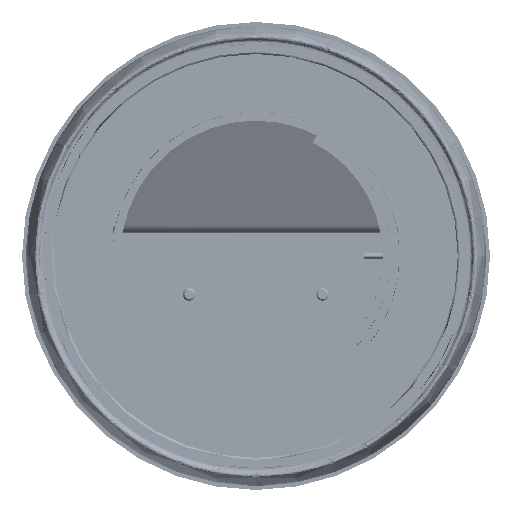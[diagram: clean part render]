
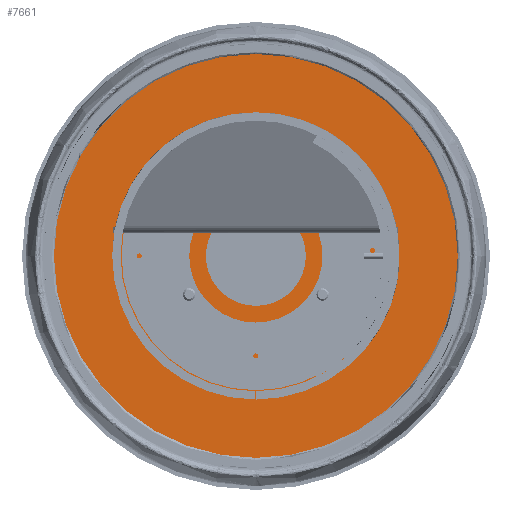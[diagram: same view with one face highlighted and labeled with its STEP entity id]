
A CAD part, front view. The second image highlights one B-rep face of the part: STEP entity #7661.
In plain terms, the highlighted planar face has unit normal (0, -1, 0).
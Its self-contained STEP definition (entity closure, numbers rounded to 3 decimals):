
#7017 = CARTESIAN_POINT ( 'NONE',  ( 0., 108., 2.534 ) ) ;
#7487 = AXIS2_PLACEMENT_3D ( 'NONE', #106033, #321375, #16121 ) ;
#7661 = ADVANCED_FACE ( 'NONE', ( #284906, #386206, #193384, #101894, #73032 ), #90441, .F. ) ;
#13164 = ORIENTED_EDGE ( 'NONE', *, *, #47186, .F. ) ;
#13946 = AXIS2_PLACEMENT_3D ( 'NONE', #305754, #397325, #87806 ) ;
#14528 = VERTEX_POINT ( 'NONE', #7017 ) ;
#16121 = DIRECTION ( 'NONE',  ( 0., 0., 1. ) ) ;
#18408 = VERTEX_POINT ( 'NONE', #357495 ) ;
#20457 = AXIS2_PLACEMENT_3D ( 'NONE', #334299, #275060, #303327 ) ;
#21049 = CIRCLE ( 'NONE', #320709, 0.219 ) ;
#33396 = DIRECTION ( 'NONE',  ( 0., 0., 1. ) ) ;
#38161 = EDGE_CURVE ( 'NONE', #233107, #57871, #48608, .T. ) ;
#39127 = DIRECTION ( 'NONE',  ( 0., -1., 0. ) ) ;
#47186 = EDGE_CURVE ( 'NONE', #397262, #266818, #276840, .T. ) ;
#48608 = CIRCLE ( 'NONE', #20457, 1.5 ) ;
#49873 = EDGE_LOOP ( 'NONE', ( #243636, #156181 ) ) ;
#57871 = VERTEX_POINT ( 'NONE', #164154 ) ;
#62706 = CARTESIAN_POINT ( 'NONE',  ( 2.005, 108., -1.158 ) ) ;
#63910 = EDGE_CURVE ( 'NONE', #305434, #222664, #241111, .T. ) ;
#64217 = DIRECTION ( 'NONE',  ( 0., -1., 0. ) ) ;
#73032 = FACE_BOUND ( 'NONE', #319879, .T. ) ;
#78749 = VERTEX_POINT ( 'NONE', #191682 ) ;
#85561 = AXIS2_PLACEMENT_3D ( 'NONE', #255447, #39127, #256782 ) ;
#87806 = DIRECTION ( 'NONE',  ( 0., 0., 1. ) ) ;
#90441 = PLANE ( 'NONE',  #13946 ) ;
#94075 = ORIENTED_EDGE ( 'NONE', *, *, #238524, .F. ) ;
#101894 = FACE_BOUND ( 'NONE', #49873, .T. ) ;
#106033 = CARTESIAN_POINT ( 'NONE',  ( 0., 108., 0. ) ) ;
#106393 = DIRECTION ( 'NONE',  ( 0., -1., 0. ) ) ;
#112163 = ORIENTED_EDGE ( 'NONE', *, *, #252196, .F. ) ;
#116560 = EDGE_LOOP ( 'NONE', ( #94075, #336179 ) ) ;
#131839 = CIRCLE ( 'NONE', #7487, 6.063 ) ;
#135423 = EDGE_CURVE ( 'NONE', #323262, #18408, #307511, .T. ) ;
#141286 = ORIENTED_EDGE ( 'NONE', *, *, #358811, .F. ) ;
#141289 = EDGE_CURVE ( 'NONE', #57871, #233107, #362788, .T. ) ;
#151229 = CARTESIAN_POINT ( 'NONE',  ( 0., 108., 6.063 ) ) ;
#154778 = DIRECTION ( 'NONE',  ( 0., -1., 0. ) ) ;
#156181 = ORIENTED_EDGE ( 'NONE', *, *, #388776, .F. ) ;
#156694 = AXIS2_PLACEMENT_3D ( 'NONE', #248395, #64217, #33396 ) ;
#162304 = DIRECTION ( 'NONE',  ( 0., 0., 1. ) ) ;
#164154 = CARTESIAN_POINT ( 'NONE',  ( 0., 108., 1.5 ) ) ;
#167620 = AXIS2_PLACEMENT_3D ( 'NONE', #339189, #154778, #312118 ) ;
#171427 = CIRCLE ( 'NONE', #156694, 0.218 ) ;
#183184 = AXIS2_PLACEMENT_3D ( 'NONE', #292077, #106393, #226181 ) ;
#190424 = CARTESIAN_POINT ( 'NONE',  ( 2.005, 108., -0.939 ) ) ;
#191682 = CARTESIAN_POINT ( 'NONE',  ( 0., 108., 2.096 ) ) ;
#193384 = FACE_BOUND ( 'NONE', #116560, .T. ) ;
#201229 = AXIS2_PLACEMENT_3D ( 'NONE', #234141, #387629, #231467 ) ;
#201427 = CARTESIAN_POINT ( 'NONE',  ( 0., 108., 0. ) ) ;
#209897 = AXIS2_PLACEMENT_3D ( 'NONE', #201427, #353579, #228345 ) ;
#222664 = VERTEX_POINT ( 'NONE', #251241 ) ;
#226181 = DIRECTION ( 'NONE',  ( 0., 0., 1. ) ) ;
#228345 = DIRECTION ( 'NONE',  ( 0., 0., 1. ) ) ;
#231467 = DIRECTION ( 'NONE',  ( 0., 0., 1. ) ) ;
#233107 = VERTEX_POINT ( 'NONE', #250064 ) ;
#234141 = CARTESIAN_POINT ( 'NONE',  ( -2.005, 108., -1.157 ) ) ;
#238524 = EDGE_CURVE ( 'NONE', #14528, #78749, #259937, .T. ) ;
#241111 = CIRCLE ( 'NONE', #376146, 0.218 ) ;
#243636 = ORIENTED_EDGE ( 'NONE', *, *, #63910, .F. ) ;
#246869 = DIRECTION ( 'NONE',  ( 0., -1., 0. ) ) ;
#248395 = CARTESIAN_POINT ( 'NONE',  ( 2.005, 108., -1.158 ) ) ;
#250064 = CARTESIAN_POINT ( 'NONE',  ( 0., 108., -1.5 ) ) ;
#251241 = CARTESIAN_POINT ( 'NONE',  ( 2.005, 108., -1.376 ) ) ;
#252196 = EDGE_CURVE ( 'NONE', #18408, #323262, #363715, .T. ) ;
#254356 = EDGE_CURVE ( 'NONE', #78749, #14528, #21049, .T. ) ;
#255447 = CARTESIAN_POINT ( 'NONE',  ( -2.005, 108., -1.157 ) ) ;
#256782 = DIRECTION ( 'NONE',  ( 0., 0., 1. ) ) ;
#259937 = CIRCLE ( 'NONE', #183184, 0.219 ) ;
#266818 = VERTEX_POINT ( 'NONE', #151229 ) ;
#269319 = ORIENTED_EDGE ( 'NONE', *, *, #135423, .F. ) ;
#271756 = CARTESIAN_POINT ( 'NONE',  ( -2.005, 108., -1.376 ) ) ;
#275060 = DIRECTION ( 'NONE',  ( 0., -1., 0. ) ) ;
#276840 = CIRCLE ( 'NONE', #209897, 6.063 ) ;
#279085 = EDGE_LOOP ( 'NONE', ( #304774, #359485 ) ) ;
#284760 = CARTESIAN_POINT ( 'NONE',  ( 0., 108., 2.315 ) ) ;
#284906 = FACE_OUTER_BOUND ( 'NONE', #352352, .T. ) ;
#292077 = CARTESIAN_POINT ( 'NONE',  ( 0., 108., 2.315 ) ) ;
#303327 = DIRECTION ( 'NONE',  ( 0., 0., 1. ) ) ;
#304774 = ORIENTED_EDGE ( 'NONE', *, *, #141289, .F. ) ;
#305434 = VERTEX_POINT ( 'NONE', #190424 ) ;
#305754 = CARTESIAN_POINT ( 'NONE',  ( 0., 108., 0. ) ) ;
#306171 = DIRECTION ( 'NONE',  ( 0., 0., 1. ) ) ;
#307511 = CIRCLE ( 'NONE', #201229, 0.218 ) ;
#312118 = DIRECTION ( 'NONE',  ( 0., 0., 1. ) ) ;
#319879 = EDGE_LOOP ( 'NONE', ( #112163, #269319 ) ) ;
#320709 = AXIS2_PLACEMENT_3D ( 'NONE', #284760, #346684, #162304 ) ;
#321375 = DIRECTION ( 'NONE',  ( 0., 1., 0. ) ) ;
#323262 = VERTEX_POINT ( 'NONE', #271756 ) ;
#334299 = CARTESIAN_POINT ( 'NONE',  ( 0., 108., 0. ) ) ;
#336179 = ORIENTED_EDGE ( 'NONE', *, *, #254356, .F. ) ;
#339189 = CARTESIAN_POINT ( 'NONE',  ( 0., 108., 0. ) ) ;
#339213 = CARTESIAN_POINT ( 'NONE',  ( 0., 108., -6.063 ) ) ;
#346684 = DIRECTION ( 'NONE',  ( 0., -1., 0. ) ) ;
#352352 = EDGE_LOOP ( 'NONE', ( #141286, #13164 ) ) ;
#353579 = DIRECTION ( 'NONE',  ( 0., 1., 0. ) ) ;
#357495 = CARTESIAN_POINT ( 'NONE',  ( -2.005, 108., -0.939 ) ) ;
#358811 = EDGE_CURVE ( 'NONE', #266818, #397262, #131839, .T. ) ;
#359485 = ORIENTED_EDGE ( 'NONE', *, *, #38161, .F. ) ;
#362788 = CIRCLE ( 'NONE', #167620, 1.5 ) ;
#363715 = CIRCLE ( 'NONE', #85561, 0.218 ) ;
#376146 = AXIS2_PLACEMENT_3D ( 'NONE', #62706, #246869, #306171 ) ;
#386206 = FACE_BOUND ( 'NONE', #279085, .T. ) ;
#387629 = DIRECTION ( 'NONE',  ( 0., -1., 0. ) ) ;
#388776 = EDGE_CURVE ( 'NONE', #222664, #305434, #171427, .T. ) ;
#397262 = VERTEX_POINT ( 'NONE', #339213 ) ;
#397325 = DIRECTION ( 'NONE',  ( 0., 1., 0. ) ) ;
